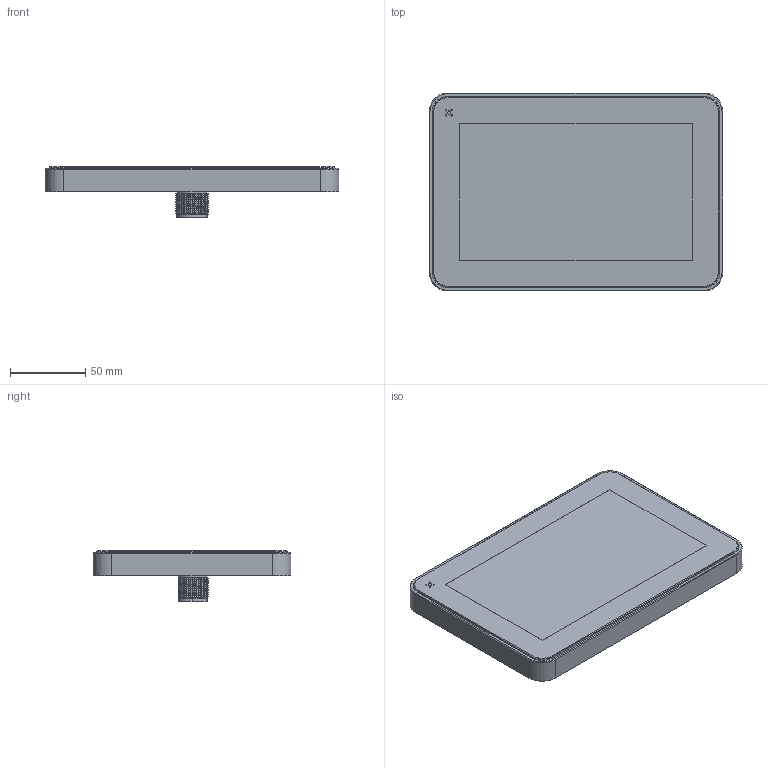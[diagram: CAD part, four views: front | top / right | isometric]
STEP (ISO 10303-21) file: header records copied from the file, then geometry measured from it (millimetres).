
FILE_DESCRIPTION (( 'STEP AP214' ), '1' );
FILE_NAME ('10078109_000.STEP', '2023-10-27T08:19:38', ( '' ), ( '' ), 'SwSTEP 2.0', 'SolidWorks 2022', '' );
FILE_SCHEMA (( 'AUTOMOTIVE_DESIGN' ));
Products named in the file (1): 10078109_000
Bounding box: 195.2 x 131.6 x 33.45 mm (x, y, z)
Volume: 422003.7 mm3; surface area: 68434.7 mm2
Topology: 1 solids, 5 shells, 2073 faces, 6083 edges, 4028 vertices
Faces by surface type: plane 1899, cylinder 102, bspline 48, cone 24
Entity records: 82989 total; most frequent: CARTESIAN_POINT 28472, ORIENTED_EDGE 12166, DIRECTION 10049, EDGE_CURVE 6083, VECTOR 5707, LINE 5707, VERTEX_POINT 4028, AXIS2_PLACEMENT_3D 2171
